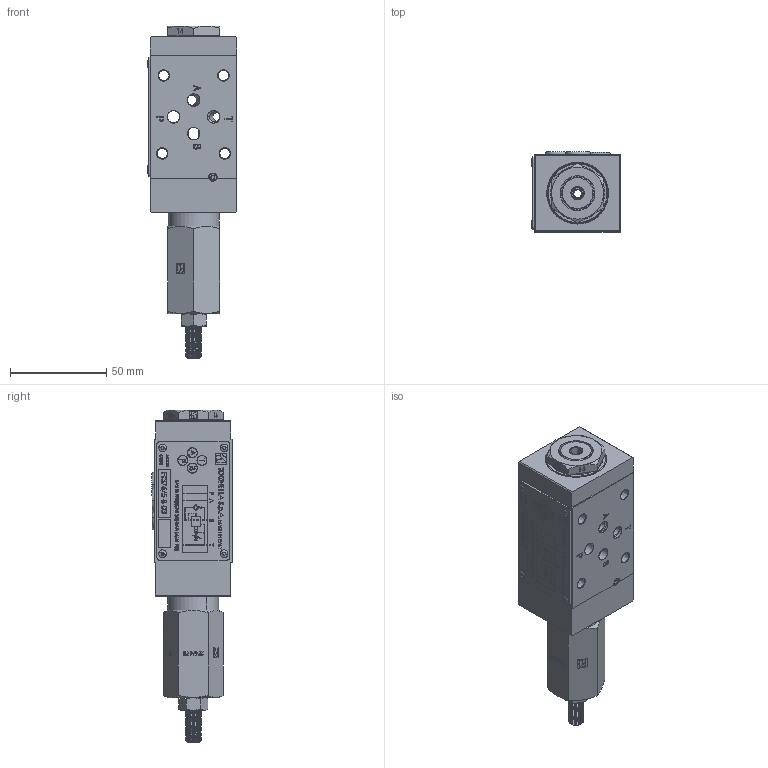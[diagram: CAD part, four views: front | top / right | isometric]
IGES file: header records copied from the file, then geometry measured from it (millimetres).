
Start section: SolidWorks IGES file using analytic representation for surfaces
Global section: file name: C:\Users\pc-te25\Desktop\ASSIEME 376-5-B-03.IGS; native system: SolidWorks 2018; preprocessor: SolidWorks 2018; author: pc-te25; date: 191203.153351; units: millimetre
Bounding box: 46.66 x 41.58 x 172.5 mm (x, y, z)
Surface area: 35158.8 mm2 (no closed solid volume)
Topology: 0 solids, 0 shells, 999 faces, 16706 edges, 16706 vertices
Faces by surface type: bspline 694, revolution 305
